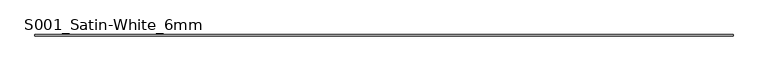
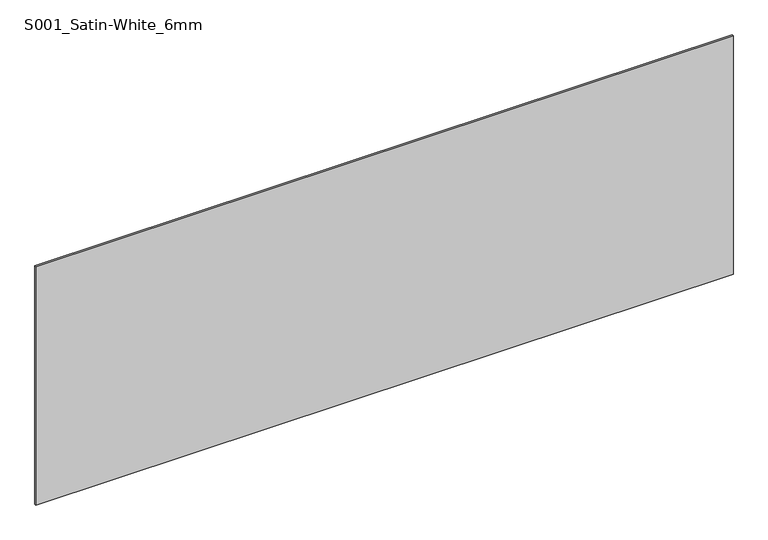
"""IFC4 building model written with IfcOpenShell, lengths in millimetres: plate geometry, Curtain-Panels_Outdoor-Material_HI-MACS_Solids : S001_Satin-White_6mm."""

import ifcopenshell
import ifcopenshell.guid

model = None  # the IFC model being written
_history = None  # IfcOwnerHistory: only IFC2X3 demands one
_inside = {}  # id of a spatial element -> (the spatial element, [elements in it])
_under = {}  # id of a project, library or spatial element -> (it, [spatial elements below it])
_declared = {}  # id of a project -> (the project, [libraries it declares])
_typed = {}  # id of a type object -> (the type object, [elements of that type])
_made_of = {}  # id of a material, layer set ... -> (it, [elements and type objects made of it])


def new_model(schema):
    """Start an empty IFC model of exactly this schema.

    Asked for "IFC4X3", IfcOpenShell would pick the latest addendum, in which some entities
    have other attributes; the version numbers below select the first issue.
    IFC2X3 requires an IfcOwnerHistory on every rooted entity: one is made here for all.
    """
    global model, _history
    if schema == "IFC4X3":
        model = ifcopenshell.file(schema_version=(4, 3, 0, 0))
    else:
        model = ifcopenshell.file(schema=schema)
    _inside.clear()
    _under.clear()
    _declared.clear()
    _typed.clear()
    _made_of.clear()
    _history = None
    if model.schema == "IFC2X3":
        org = make("IfcOrganization", Name="unknown")
        user = make(
            "IfcPersonAndOrganization",
            ThePerson=make("IfcPerson", FamilyName="unknown"),
            TheOrganization=org,
        )
        app = make(
            "IfcApplication",
            ApplicationDeveloper=org,
            Version="unknown",
            ApplicationFullName="unknown",
            ApplicationIdentifier="unknown",
        )
        _history = make(
            "IfcOwnerHistory",
            OwningUser=user,
            OwningApplication=app,
            ChangeAction="ADDED",
            CreationDate=0,
        )
    return model


def make(cls, **values):
    """One entity of the class cls with the attributes given. An attribute that is None is left unset."""
    return model.create_entity(
        cls, **{name: value for name, value in values.items() if value is not None}
    )


def rooted(cls, **values):
    """An entity with a GlobalId (a new one), such as an element, a storey or a relation."""
    return make(cls, GlobalId=ifcopenshell.guid.new(), OwnerHistory=_history, **values)


def si_unit(unit_type, name, prefix=None):
    """IfcSIUnit, for example si_unit("LENGTHUNIT", "METRE", prefix="MILLI")."""
    return make("IfcSIUnit", UnitType=unit_type, Prefix=prefix, Name=name)


def assignment(units):
    """IfcUnitAssignment: the units of a project."""
    return None if units is None else make("IfcUnitAssignment", Units=units)


def point(xyz):
    """IfcCartesianPoint."""
    return None if xyz is None else make("IfcCartesianPoint", Coordinates=xyz)


def direction(xyz):
    """IfcDirection."""
    return None if xyz is None else make("IfcDirection", DirectionRatios=xyz)


def frame(location, z_axis=None, x_axis=None):
    """IfcAxis2Placement3D, a coordinate frame: its origin and axes. An axis left out is left unset."""
    return make(
        "IfcAxis2Placement3D",
        Location=point(location),
        Axis=direction(z_axis),
        RefDirection=direction(x_axis),
    )


def origin():
    """The frame at (0, 0, 0) with its axes left unset."""
    return frame((0.0, 0.0, 0.0))


def origin_with_axes():
    """The frame at (0, 0, 0) with the z axis (0, 0, 1) and the x axis (1, 0, 0) written out."""
    return frame((0.0, 0.0, 0.0), z_axis=(0.0, 0.0, 1.0), x_axis=(1.0, 0.0, 0.0))


def place(relative_to, where):
    """IfcLocalPlacement: puts the frame where relative to a parent placement (None: the world)."""
    return make(
        "IfcLocalPlacement", PlacementRelTo=relative_to, RelativePlacement=where
    )


def context(
    kind, dimensions, precision=None, world=None, true_north=None, identifier=None
):
    """IfcGeometricRepresentationContext, for example the 3D "Model" context."""
    return make(
        "IfcGeometricRepresentationContext",
        ContextIdentifier=identifier,
        ContextType=kind,
        CoordinateSpaceDimension=dimensions,
        Precision=precision,
        WorldCoordinateSystem=world,
        TrueNorth=true_north,
    )


def project(units=None, contexts=None):
    """IfcProject with its units and contexts."""
    return rooted(
        "IfcProject",
        Name="project",
        RepresentationContexts=contexts,
        UnitsInContext=assignment(units),
    )


def spatial(cls, under=None, at=None, **own):
    """A site, building, storey or space (cls), placed at a placement, below another one or the project."""
    s = rooted(cls, ObjectPlacement=at, **own)
    if under is not None:
        _under.setdefault(under.id(), (under, []))[1].append(s)
    return s


def polyline(points):
    """IfcPolyline through the points."""
    return make("IfcPolyline", Points=[point(p) for p in points])


def outline(outer, holes=None, kind="AREA"):
    """IfcArbitraryClosedProfileDef: a profile drawn as a closed curve; with holes, ...WithVoids."""
    if holes is None:
        return make("IfcArbitraryClosedProfileDef", ProfileType=kind, OuterCurve=outer)
    return make(
        "IfcArbitraryProfileDefWithVoids",
        ProfileType=kind,
        OuterCurve=outer,
        InnerCurves=holes,
    )


def extrude(swept, where, along, depth):
    """IfcExtrudedAreaSolid: the profile swept, set in the frame where, extruded along a direction by depth."""
    return make(
        "IfcExtrudedAreaSolid",
        SweptArea=swept,
        Position=where,
        ExtrudedDirection=direction(along),
        Depth=depth,
    )


def shape(context_of_items, identifier, shape_type, items):
    """IfcShapeRepresentation: the items that make up one representation, for example the "Body"."""
    return make(
        "IfcShapeRepresentation",
        ContextOfItems=context_of_items,
        RepresentationIdentifier=identifier,
        RepresentationType=shape_type,
        Items=items,
    )


def source(mapping_origin, context_of_items, identifier, shape_type, items):
    """IfcRepresentationMap: a shape defined once, which mapped items show again and again."""
    return make(
        "IfcRepresentationMap",
        MappingOrigin=mapping_origin,
        MappedRepresentation=shape(context_of_items, identifier, shape_type, items),
    )


def transform(
    local_origin,
    x_axis=None,
    y_axis=None,
    z_axis=None,
    scale=None,
    scale2=None,
    scale3=None,
    uniform=True,
):
    """IfcCartesianTransformationOperator3D, or its non-uniform kind. x_axis, y_axis, z_axis: its Axis1, 2, 3."""
    if uniform:
        return make(
            "IfcCartesianTransformationOperator3D",
            Axis1=direction(x_axis),
            Axis2=direction(y_axis),
            LocalOrigin=point(local_origin),
            Scale=scale,
            Axis3=direction(z_axis),
        )
    return make(
        "IfcCartesianTransformationOperator3DnonUniform",
        Axis1=direction(x_axis),
        Axis2=direction(y_axis),
        LocalOrigin=point(local_origin),
        Scale=scale,
        Axis3=direction(z_axis),
        Scale2=scale2,
        Scale3=scale3,
    )


def mapped(mapping_source, mapping_target):
    """IfcMappedItem: shows the shape of a source again, moved by a transform."""
    return make(
        "IfcMappedItem", MappingSource=mapping_source, MappingTarget=mapping_target
    )


def made_of(thing, what):
    """Note that an element or type object is made of a material, layer set ...; save() writes the relation."""
    if what is not None:
        _made_of.setdefault(what.id(), (what, []))[1].append(thing)
    return thing


def element(
    cls,
    number,
    at=None,
    inside=None,
    cuts=None,
    type_object=None,
    material=None,
    context=None,
    identifier="Body",
    shape_type=None,
    held_by="IfcProductDefinitionShape",
    body=None,
    shapes=None,
    **own,
):
    """One element of the class cls, such as IfcWall. Its Tag is "e" and its number.

    at: its placement. inside: the storey or other place that contains it. cuts: it is an
    opening in that element (IfcRelVoidsElement). A single representation is given by context,
    identifier, shape_type and body (its items); several are given by shapes. held_by: the class
    of the entity that holds the representations. save() writes the other relations.
    """
    e = rooted(cls, Tag="e%d" % number, ObjectPlacement=at, **own)
    if body is not None:
        shapes = [shape(context, identifier, shape_type, body)]
    if shapes is not None:
        e.Representation = make(held_by, Representations=shapes)
    if inside is not None:
        _inside.setdefault(inside.id(), (inside, []))[1].append(e)
    if cuts is not None:
        rooted(
            "IfcRelVoidsElement", RelatingBuildingElement=cuts, RelatedOpeningElement=e
        )
    if type_object is not None:
        _typed.setdefault(type_object.id(), (type_object, []))[1].append(e)
    return made_of(e, material)


def aggregate(whole, parts):
    """IfcRelAggregates: a whole, such as a stair, and the parts it consists of."""
    return rooted("IfcRelAggregates", RelatingObject=whole, RelatedObjects=parts)


def save(model, path):
    """Write the relations noted so far, then the file.

    IfcRelAggregates (storeys below a building ...), IfcRelContainedInSpatialStructure (elements
    in a storey), IfcRelDefinesByType, IfcRelAssociatesMaterial and IfcRelDeclares: one each for
    every whole, place, type object, material and project.
    """
    for whole, parts in _under.values():
        aggregate(whole, parts)
    for where, things in _inside.values():
        rooted(
            "IfcRelContainedInSpatialStructure",
            RelatedElements=things,
            RelatingStructure=where,
        )
    for kind, things in _typed.values():
        rooted("IfcRelDefinesByType", RelatedObjects=things, RelatingType=kind)
    for what, things in _made_of.values():
        rooted("IfcRelAssociatesMaterial", RelatedObjects=things, RelatingMaterial=what)
    for by, libraries in _declared.values():
        rooted("IfcRelDeclares", RelatingContext=by, RelatedDefinitions=libraries)
    model.write(path)


def s001_satin_white_6mm_b9cd6ac6(model_context):
    return source(origin(), model_context, "Body", "SweptSolid", [
        extrude(outline(polyline([(1840.0, 3.0), (1840.0, -3.0), (-1840.0, -3.0), (-1840.0, 3.0), (1840.0, 3.0)])), origin_with_axes(), (0.0, 0.0, 1.0), 1330.2413287),
    ])


if __name__ == "__main__":
    model = new_model("IFC4")
    model_context = context("Model", 3, world=origin())
    ifc_project = project(units=[si_unit("LENGTHUNIT", "METRE", prefix="MILLI")], contexts=[model_context])
    site = spatial("IfcSite", under=ifc_project)
    building = spatial("IfcBuilding", under=site)
    placement = place(None, origin())
    s001_satin_white_6mm_shape = s001_satin_white_6mm_b9cd6ac6(model_context)
    element("IfcPlate", 1, ObjectType="Curtain-Panels_Outdoor-Material_HI-MACS_Solids : S001_Satin-White_6mm", at=placement, inside=building, context=model_context, shape_type="MappedRepresentation", body=[
        mapped(s001_satin_white_6mm_shape, transform((0.0, 0.0, 0.0), x_axis=(1.0, 0.0, 0.0), y_axis=(0.0, 1.0, 0.0), z_axis=(0.0, 0.0, 1.0))),
    ])
    save(model, "model.ifc")
